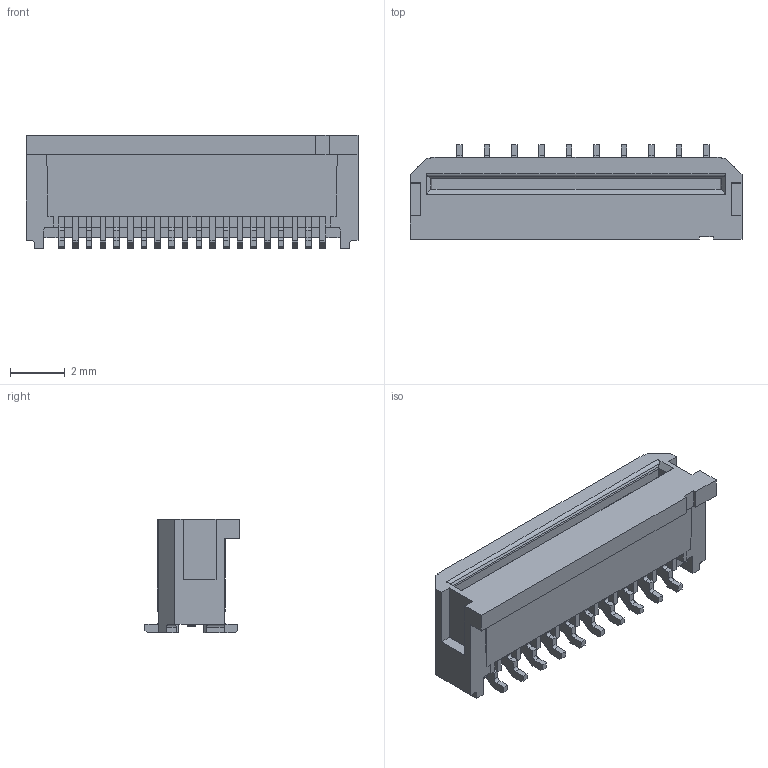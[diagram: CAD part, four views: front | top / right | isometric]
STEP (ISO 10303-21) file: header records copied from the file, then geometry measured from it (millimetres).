
FILE_DESCRIPTION(('CATIA V5 STEP Exchange'),'2;1');
FILE_NAME('C:\Users\user\Desktop\00_6244_xxx_011_xxx_+_STEP\00_6244_020_011_xxx_+.stp','2016-04-08T08:09:56+00:00',('none'),('none'),'CATIA Version 5-6 Release 2014 SP4','CATIA V5 STEP AP203','none');
FILE_SCHEMA(('CONFIG_CONTROL_DESIGN'));
Length unit declared in the file: millimetre
Products named in the file (1): Part1
Bounding box: 12.1 x 3.45 x 4.13 mm (x, y, z)
Volume: 95 mm3; surface area: 327.5 mm2
Topology: 21 solids, 21 shells, 589 faces, 1843 edges, 1297 vertices
Faces by surface type: plane 539, cylinder 50
Entity records: 18244 total; most frequent: ORIENTED_EDGE 3686, CARTESIAN_POINT 3408, DIRECTION 2155, EDGE_CURVE 1843, VECTOR 1729, LINE 1729, VERTEX_POINT 1297, EDGE_LOOP 590
